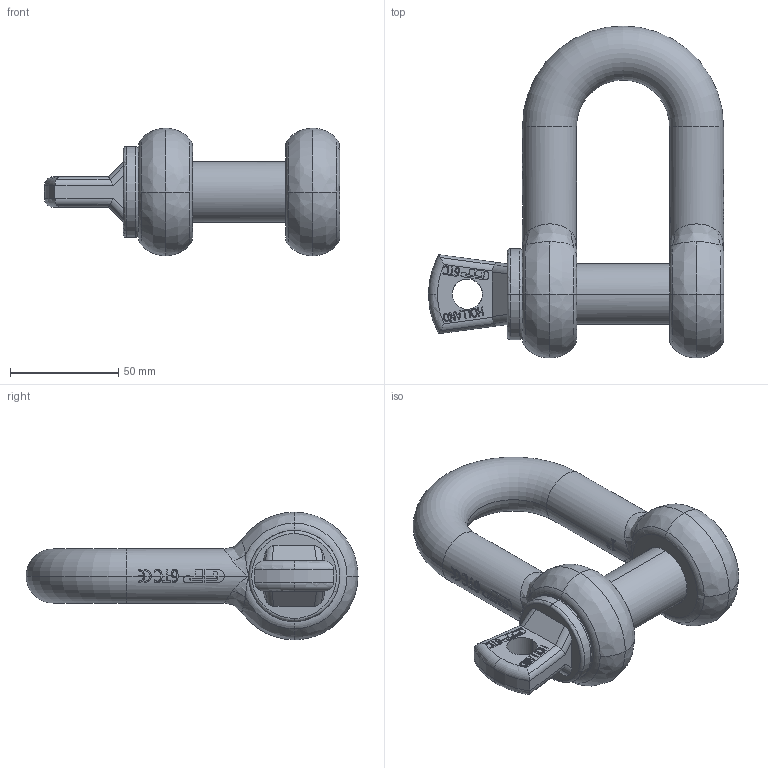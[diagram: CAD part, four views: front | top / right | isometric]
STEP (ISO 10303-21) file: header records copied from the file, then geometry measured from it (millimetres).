
FILE_DESCRIPTION(('STEP AP214'),'1');
FILE_NAME('gpgdbb25.stp','2017-06-30T08:40:15',('TraceParts'),('TraceParts S.A.'),'Spatial InterOp 3D',' ',' ');
FILE_SCHEMA(('automotive_design'));
Length unit declared in the file: millimetre
Products named in the file (2): gpgdbb25_1; gpgdbb25_2
Bounding box: 136.5 x 153.5 x 59 mm (x, y, z)
Volume: 269700.8 mm3; surface area: 50586.6 mm2
Topology: 2 solids, 2 shells, 588 faces, 2027 edges, 1457 vertices
Faces by surface type: bspline 221, plane 221, cylinder 119, torus 24, cone 3
Entity records: 31405 total; most frequent: CARTESIAN_POINT 12156, ORIENTED_EDGE 4038, EDGE_CURVE 2019, DIRECTION 1531, VERTEX_POINT 1457, B_SPLINE_CURVE_WITH_KNOTS 1304, EDGE_LOOP 616, LINE 591
